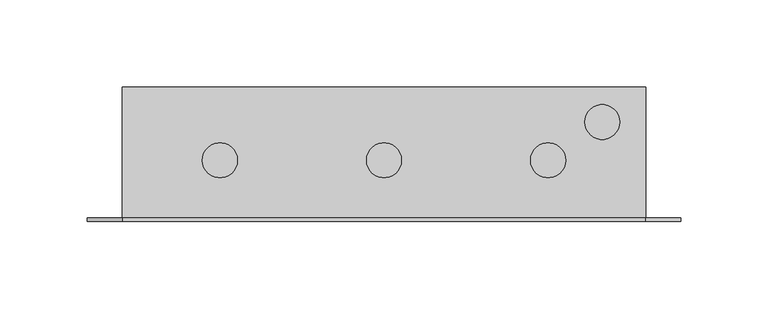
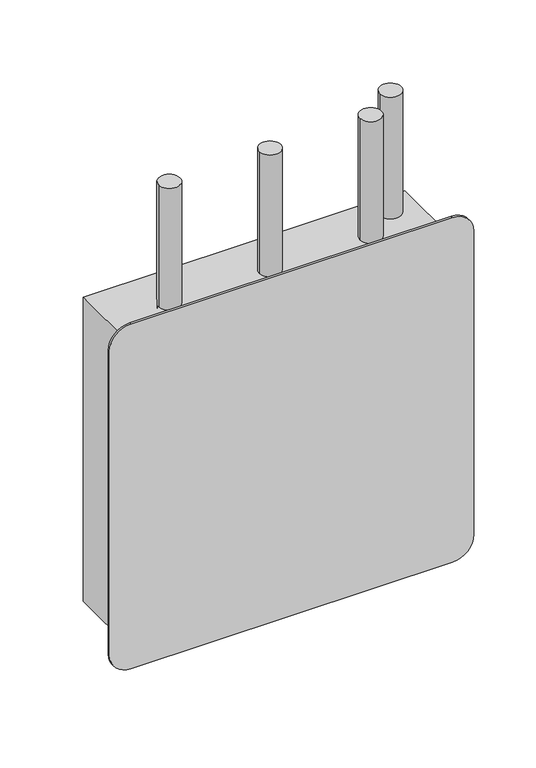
"""IFC4 building model written with IfcOpenShell, lengths in millimetres: flow terminal geometry, Plumbing Fixtures_Thermostatic Mixing Valve_Thornthwaite_Rada 215dk TMV Cold Feed in 300mm box : Rada 215dk TMV in a recessed box with Lid and Cold Feed - 40861RB300CF."""

from ifc_helpers import new_model, si_unit, point, frame, frame_2d, origin, place, context, project, spatial, polyline, circle_curve, trimmed, segment, composite_curve, outline, extrude, faceted_brep, source, transform, mapped, element, save


def flow_terminal_6f73c769(model_context):
    return source(origin(), model_context, "Body", "SolidModel", [
        extrude(outline(composite_curve([segment(trimmed(circle_curve(frame_2d((125.0, 17.5)), 10.0), [point((135.0, 17.5))], [point((115.0, 17.5))], False, "CARTESIAN"), True, "CONTINUOUS"), segment(trimmed(circle_curve(frame_2d((125.0, 17.5)), 10.0), [point((115.0, 17.5))], [point((135.0, 17.5))], False, "CARTESIAN"), True, "CONTINUOUS")], self_intersect=False)), frame((0.0, 0.0, 470.0), z_axis=(0.0, 0.0, 1.0), x_axis=(1.0, 0.0, 0.0)), (0.0, 0.0, 1.0), 470.0),
        extrude(outline(composite_curve([segment(trimmed(circle_curve(frame_2d((-94.0, -4.5)), 10.0), [point((-84.0, -4.5))], [point((-104.0, -4.5))], False, "CARTESIAN"), True, "CONTINUOUS"), segment(trimmed(circle_curve(frame_2d((-94.0, -4.5)), 10.0), [point((-104.0, -4.5))], [point((-84.0, -4.5))], False, "CARTESIAN"), True, "CONTINUOUS")], self_intersect=False)), frame((0.0, 0.0, 724.0), z_axis=(0.0, 0.0, 1.0), x_axis=(1.0, 0.0, 0.0)), (0.0, 0.0, 1.0), 216.0),
        extrude(outline(composite_curve([segment(trimmed(circle_curve(frame_2d((94.0, -4.5)), 10.0), [point((104.0, -4.5))], [point((84.0, -4.5))], False, "CARTESIAN"), True, "CONTINUOUS"), segment(trimmed(circle_curve(frame_2d((94.0, -4.5)), 10.0), [point((84.0, -4.5))], [point((104.0, -4.5))], False, "CARTESIAN"), True, "CONTINUOUS")], self_intersect=False)), frame((0.0, 0.0, 724.0), z_axis=(0.0, 0.0, 1.0), x_axis=(1.0, 0.0, 0.0)), (0.0, 0.0, 1.0), 216.0),
        extrude(outline(composite_curve([segment(trimmed(circle_curve(frame_2d((0.0, -4.5)), 10.0), [point((10.0, -4.5))], [point((-10.0, -4.5))], False, "CARTESIAN"), True, "CONTINUOUS"), segment(trimmed(circle_curve(frame_2d((0.0, -4.5)), 10.0), [point((-10.0, -4.5))], [point((10.0, -4.5))], False, "CARTESIAN"), True, "CONTINUOUS")], self_intersect=False)), frame((0.0, 0.0, 744.0), z_axis=(0.0, 0.0, 1.0), x_axis=(1.0, 0.0, 0.0)), (0.0, 0.0, 1.0), 196.0),
        faceted_brep([(-150.0, -37.5, 520.0), (150.0, -37.5, 520.0), (150.0, -37.5, 820.0), (-150.0, -37.5, 820.0), (-148.0, -37.5, 818.0), (148.0, -37.5, 818.0), (148.0, -37.5, 522.0), (-148.0, -37.5, 522.0), (-150.0, 37.5, 520.0), (-150.0, 37.5, 820.0), (150.0, 37.5, 820.0), (150.0, 37.5, 520.0), (-148.0, 35.5, 522.0), (-148.0, 35.5, 818.0), (148.0, 35.5, 522.0), (148.0, 35.5, 818.0)], [[[0, 1, 2, 3], [4, 5, 6, 7]], [[8, 9, 10, 11]], [[0, 3, 9, 8]], [[3, 2, 10, 9]], [[2, 1, 11, 10]], [[1, 0, 8, 11]], [[4, 7, 12, 13]], [[7, 6, 14, 12]], [[6, 5, 15, 14]], [[5, 4, 13, 15]], [[13, 12, 14, 15]]]),
        extrude(outline(composite_curve([segment(polyline([(840.0, 150.0), (840.0, -150.0)]), True, "CONTINUOUS"), segment(trimmed(circle_curve(frame_2d((820.0, -150.0)), 20.0), [point((840.0, -150.0))], [point((820.0, -170.0))], False, "CARTESIAN"), True, "CONTINUOUS"), segment(polyline([(820.0, -170.0), (520.0, -170.0)]), True, "CONTINUOUS"), segment(trimmed(circle_curve(frame_2d((520.0, -150.0)), 20.0), [point((520.0, -170.0))], [point((500.0, -150.0))], False, "CARTESIAN"), True, "CONTINUOUS"), segment(polyline([(500.0, -150.0), (500.0, 150.0)]), True, "CONTINUOUS"), segment(trimmed(circle_curve(frame_2d((520.0, 150.0)), 20.0), [point((500.0, 150.0))], [point((520.0, 170.0))], False, "CARTESIAN"), True, "CONTINUOUS"), segment(polyline([(520.0, 170.0), (820.0, 170.0)]), True, "CONTINUOUS"), segment(trimmed(circle_curve(frame_2d((820.0, 150.0)), 20.0), [point((820.0, 170.0))], [point((840.0, 150.0))], False, "CARTESIAN"), True, "CONTINUOUS")], self_intersect=False)), frame((0.0, -39.5, 0.0), z_axis=(0.0, 1.0, 0.0), x_axis=(0.0, 0.0, 1.0)), (0.0, 0.0, 1.0), 2.0),
    ])


if __name__ == "__main__":
    model = new_model("IFC4")
    model_context = context("Model", 3, world=origin())
    ifc_project = project(units=[si_unit("LENGTHUNIT", "METRE", prefix="MILLI")], contexts=[model_context])
    site = spatial("IfcSite", under=ifc_project)
    building = spatial("IfcBuilding", under=site)
    placement = place(None, origin())
    flow_terminal_shape = flow_terminal_6f73c769(model_context)
    element("IfcFlowTerminal", 1, ObjectType="Plumbing Fixtures_Thermostatic Mixing Valve_Thornthwaite_Rada 215dk TMV Cold Feed in 300mm box : Rada 215dk TMV in a recessed box with Lid and Cold Feed - 40861RB300CF", at=placement, inside=building, context=model_context, shape_type="MappedRepresentation", body=[
        mapped(flow_terminal_shape, transform((0.0, 0.0, 0.0), x_axis=(1.0, 0.0, 0.0), y_axis=(0.0, 1.0, 0.0), z_axis=(0.0, 0.0, 1.0))),
    ])
    save(model, "model.ifc")
